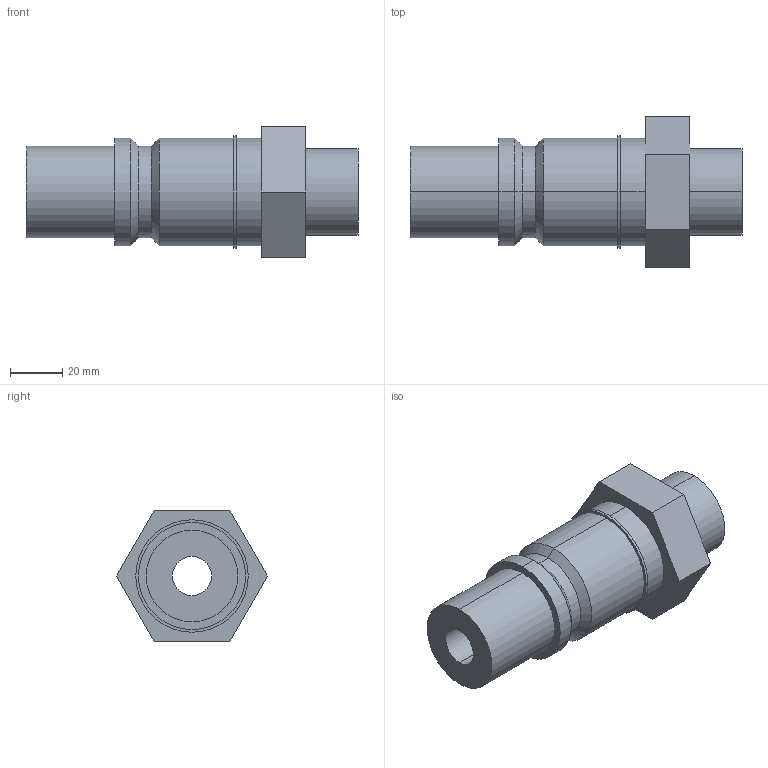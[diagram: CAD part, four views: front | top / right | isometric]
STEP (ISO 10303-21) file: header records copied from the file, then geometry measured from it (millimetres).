
FILE_DESCRIPTION (( 'STEP AP214' ), '1' );
FILE_NAME ('BR601.25 ERB 33.STEP', '2020-12-02T13:54:04', ( '' ), ( '' ), 'SwSTEP 2.0', 'SolidWorks 2018', '' );
FILE_SCHEMA (( 'AUTOMOTIVE_DESIGN' ));
Length unit declared in the file: millimetre
Products named in the file (1): BR601.25 ERB 33
Bounding box: 127 x 57.73 x 50 mm (x, y, z)
Volume: 135278.5 mm3; surface area: 26293 mm2
Topology: 1 solids, 1 shells, 35 faces, 74 edges, 46 vertices
Faces by surface type: cylinder 16, plane 13, cone 6
Entity records: 980 total; most frequent: DIRECTION 180, CARTESIAN_POINT 156, ORIENTED_EDGE 148, EDGE_CURVE 74, AXIS2_PLACEMENT_3D 70, VERTEX_POINT 46, EDGE_LOOP 42, VECTOR 40
